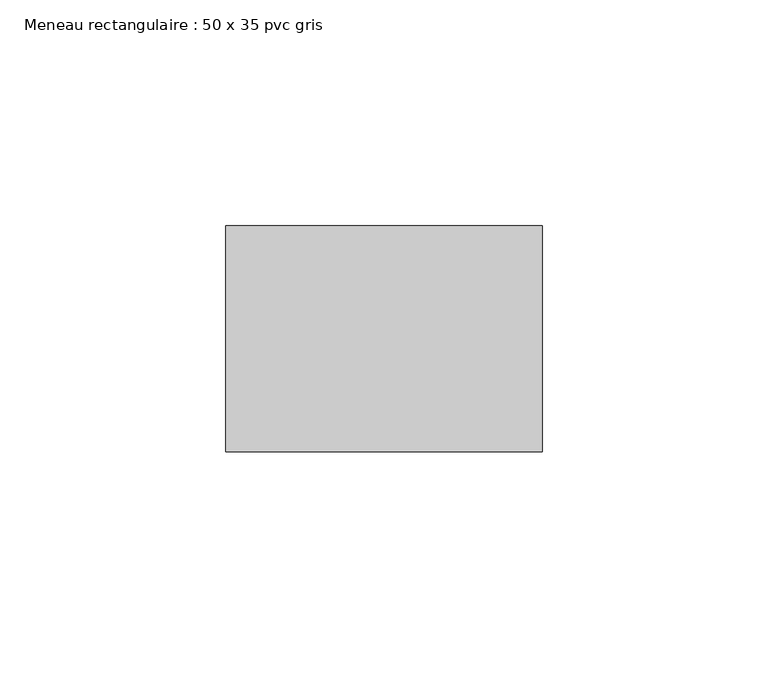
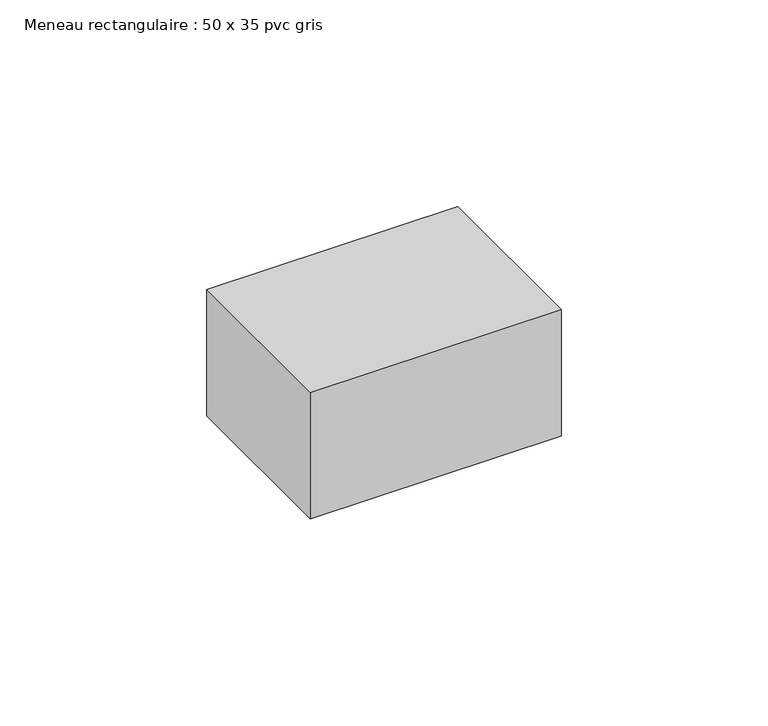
"""IFC4 building model written with IfcOpenShell, lengths in millimetres: member geometry, Meneau rectangulaire : 50 x 35 pvc gris."""

from ifc_helpers import new_model, si_unit, frame, origin, place, context, project, spatial, polyline, outline, extrude, source, transform, mapped, element, save


def meneau_rectangulaire_50_x_35_pvc_gris_9e86233f(model_context):
    return source(origin(), model_context, "Body", "SweptSolid", [
        extrude(outline(polyline([(35.0, 0.0), (35.0, -50.0), (-35.0, -50.0), (-35.0, 0.0), (35.0, 0.0)])), frame((0.0, 0.0, -37.3081842), z_axis=(0.0, 0.0, 1.0), x_axis=(1.0, 0.0, 0.0)), (0.0, 0.0, 1.0), 37.3081842),
    ])


if __name__ == "__main__":
    model = new_model("IFC4")
    model_context = context("Model", 3, world=origin())
    ifc_project = project(units=[si_unit("LENGTHUNIT", "METRE", prefix="MILLI")], contexts=[model_context])
    site = spatial("IfcSite", under=ifc_project)
    building = spatial("IfcBuilding", under=site)
    placement = place(None, origin())
    meneau_rectangulaire_50_x_35_pvc_gris_shape = meneau_rectangulaire_50_x_35_pvc_gris_9e86233f(model_context)
    element("IfcMember", 1, ObjectType="Meneau rectangulaire : 50 x 35 pvc gris", at=placement, inside=building, context=model_context, shape_type="MappedRepresentation", body=[
        mapped(meneau_rectangulaire_50_x_35_pvc_gris_shape, transform((0.0, 0.0, 0.0), x_axis=(1.0, 0.0, 0.0), y_axis=(0.0, 1.0, 0.0), z_axis=(0.0, 0.0, 1.0))),
    ])
    save(model, "model.ifc")
